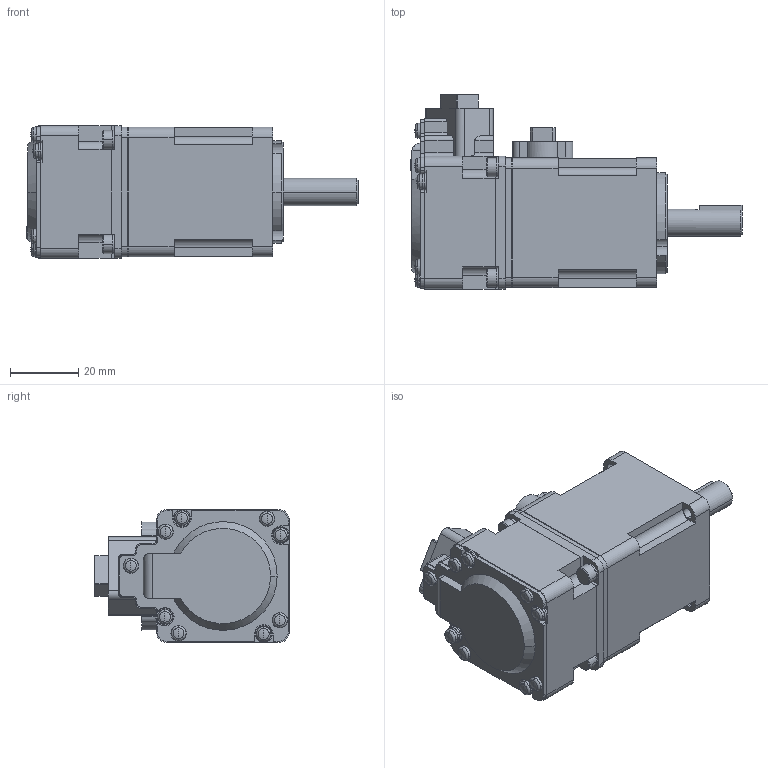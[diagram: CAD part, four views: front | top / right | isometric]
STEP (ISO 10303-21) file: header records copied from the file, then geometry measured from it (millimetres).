
FILE_DESCRIPTION( ( '' ), '1' );
FILE_NAME( '//expscmdclustefs.cadenas.external/client_exchange/iodir/jobs/output/wkb53605178_no0/STEP/MSME5AZG1U_1__2_03.stp', '2013-01-24T13:07:52', ( '' ), ( '' ), ' ', ' ', ' ' );
FILE_SCHEMA( ( 'CONFIG_CONTROL_DESIGN' ) );
Length unit declared in the file: millimetre
Products named in the file (1): 1
Bounding box: 97.5 x 57.1 x 39 mm (x, y, z)
Volume: 110202.4 mm3; surface area: 20604.8 mm2
Topology: 1 solids, 1 shells, 657 faces, 1746 edges, 1131 vertices
Faces by surface type: plane 348, cylinder 223, cone 46, torus 40
Entity records: 20505 total; most frequent: CARTESIAN_POINT 3673, DIRECTION 3621, ORIENTED_EDGE 3444, EDGE_CURVE 1722, AXIS2_PLACEMENT_3D 1261, VERTEX_POINT 1131, LINE 1099, VECTOR 1099
